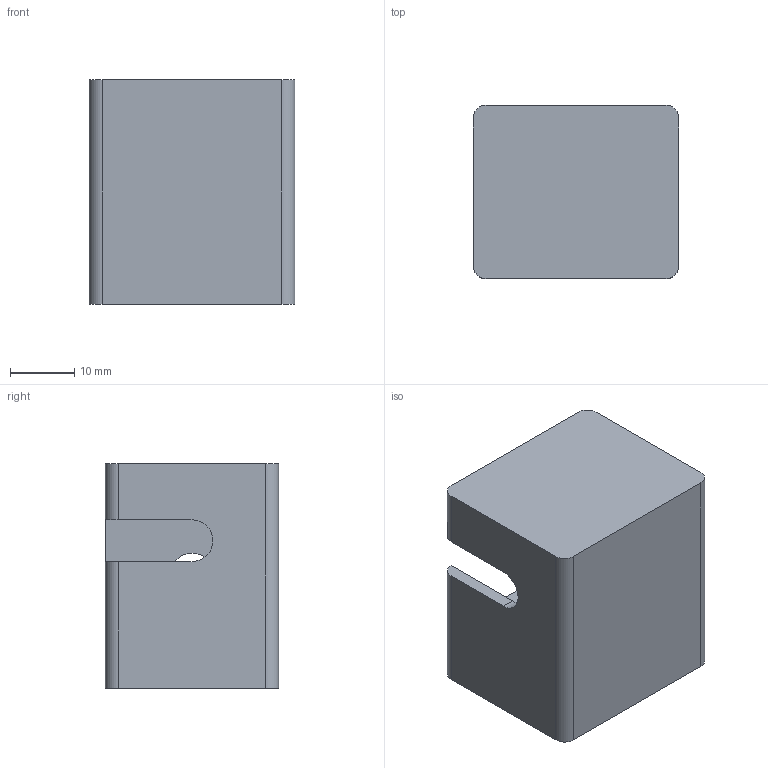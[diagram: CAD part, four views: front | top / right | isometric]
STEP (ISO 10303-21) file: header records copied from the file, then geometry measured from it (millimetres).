
FILE_DESCRIPTION (( 'STEP AP214' ), '1' );
FILE_NAME ('P001-B101_RearEnclosure_Rev2D-1.STEP', '2026-04-20T05:40:01', ( '' ), ( '' ), 'SwSTEP 2.0', 'SolidWorks 2024', '' );
FILE_SCHEMA (( 'AUTOMOTIVE_DESIGN' ));
Length unit declared in the file: millimetre
Products named in the file (1): P001-B101_RearEnclosure_Rev2D-1
Bounding box: 32 x 27 x 35 mm (x, y, z)
Volume: 15059.5 mm3; surface area: 8701.9 mm2
Topology: 1 solids, 1 shells, 56 faces, 156 edges, 102 vertices
Faces by surface type: plane 44, cylinder 12
Full cylindrical faces by diameter (mm): 6.65 x1, 7.5 x1, 8.5 x1
Entity records: 1792 total; most frequent: CARTESIAN_POINT 312, ORIENTED_EDGE 306, DIRECTION 291, EDGE_CURVE 153, VECTOR 129, LINE 129, VERTEX_POINT 102, AXIS2_PLACEMENT_3D 81
